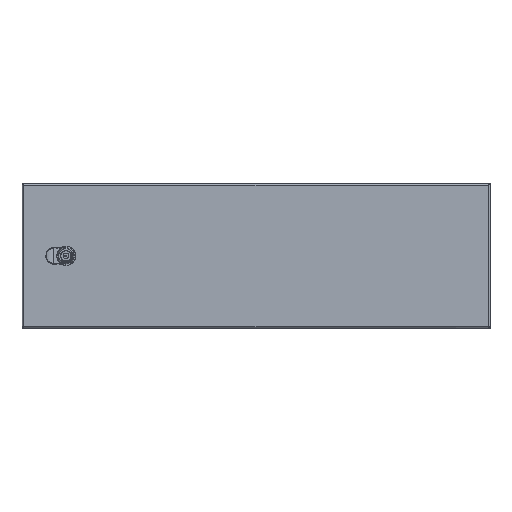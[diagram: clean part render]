
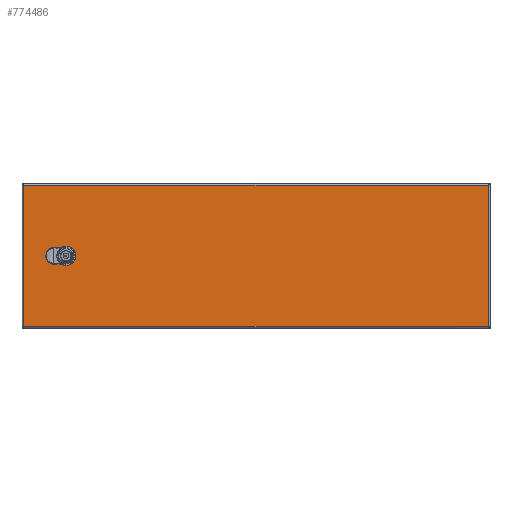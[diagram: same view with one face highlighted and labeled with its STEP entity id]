
A CAD part, top view. The second image highlights one B-rep face of the part: STEP entity #774486.
In plain terms, the highlighted planar face has unit normal (0, 0, 1).
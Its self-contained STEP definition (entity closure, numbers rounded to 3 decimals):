
#766111=CARTESIAN_POINT(' ',(-399.011,122.733,269.003));
#766112=VERTEX_POINT(' ',#766111);
#767546=CARTESIAN_POINT(' ',(389.389,122.733,269.003));
#767547=VERTEX_POINT(' ',#767546);
#768461=CARTESIAN_POINT(' ',(389.389,122.733,269.003));
#768466=DIRECTION(' ',(-1.,0.,0.));
#768471=VECTOR(' ',#768466,1.);
#768476=LINE('',#768461,#768471);
#768481=EDGE_CURVE(' ',#767547,#766112,#768476,.T.);
#772341=CARTESIAN_POINT(' ',(389.389,-116.667,269.003));
#772342=VERTEX_POINT(' ',#772341);
#773926=CARTESIAN_POINT(' ',(-399.011,-116.667,269.003));
#773927=VERTEX_POINT(' ',#773926);
#774356=DIRECTION(' ',(-0.,-0.,1.));
#774361=CARTESIAN_POINT(' ',(389.389,-116.667,269.003));
#774366=DIRECTION(' ',(0.,1.,0.));
#774371=AXIS2_PLACEMENT_3D(' ',#774361,#774356,#774366);
#774376=PLANE('NONE',#774371);
#774381=CARTESIAN_POINT(' ',(-399.011,-116.667,269.003));
#774386=DIRECTION(' ',(1.,0.,0.));
#774391=VECTOR(' ',#774386,1.);
#774396=LINE('',#774381,#774391);
#774401=EDGE_CURVE(' ',#773927,#772342,#774396,.T.);
#774406=ORIENTED_EDGE(' ',*,*,#774401,.T.);
#774411=CARTESIAN_POINT(' ',(389.389,122.733,269.003));
#774416=DIRECTION(' ',(0.,-1.,0.));
#774421=VECTOR(' ',#774416,1.);
#774426=LINE('',#774411,#774421);
#774431=EDGE_CURVE(' ',#767547,#772342,#774426,.T.);
#774436=ORIENTED_EDGE(' ',*,*,#774431,.F.);
#774441=ORIENTED_EDGE(' ',*,*,#768481,.T.);
#774446=CARTESIAN_POINT(' ',(-399.011,122.733,269.003));
#774451=DIRECTION(' ',(0.,-1.,0.));
#774456=VECTOR(' ',#774451,1.);
#774461=LINE('',#774446,#774456);
#774466=EDGE_CURVE(' ',#766112,#773927,#774461,.T.);
#774471=ORIENTED_EDGE(' ',*,*,#774466,.T.);
#774476=EDGE_LOOP(' ',(#774406,#774436,#774441,#774471));
#774481=FACE_OUTER_BOUND(' ',#774476,.T.);
#774486=ADVANCED_FACE('NONE',(#774481),#774376,.T.);
